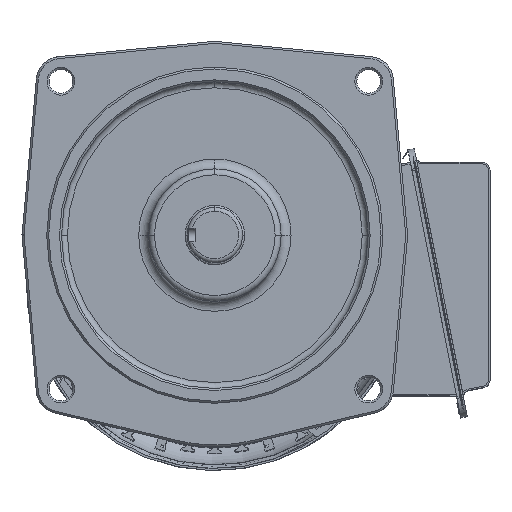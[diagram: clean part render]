
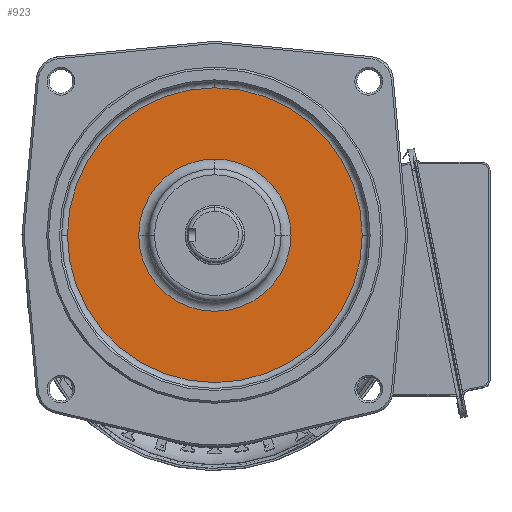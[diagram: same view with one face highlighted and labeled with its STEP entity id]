
A CAD part, top view. The second image highlights one B-rep face of the part: STEP entity #923.
In plain terms, the highlighted planar face has unit normal (0, 0, 1).
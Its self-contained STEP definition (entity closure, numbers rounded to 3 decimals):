
#823=CARTESIAN_POINT('',(0.,61.5,277.5));
#824=VERTEX_POINT('',#823);
#832=CARTESIAN_POINT('',(-38.5,23.,277.5));
#833=VERTEX_POINT('',#832);
#834=CARTESIAN_POINT('',(0.,23.,277.5));
#835=DIRECTION('',(0.,0.,1.));
#836=DIRECTION('',(1.,0.,-0.));
#837=AXIS2_PLACEMENT_3D('',#834,#835,#836);
#838=CIRCLE('',#837,38.5);
#839=EDGE_CURVE('',#824,#833,#838,.T.);
#857=CARTESIAN_POINT('',(38.5,23.,277.5));
#858=VERTEX_POINT('',#857);
#868=CARTESIAN_POINT('',(0.,23.,277.5));
#869=DIRECTION('',(0.,0.,1.));
#870=DIRECTION('',(-1.,0.,0.));
#871=AXIS2_PLACEMENT_3D('',#868,#869,#870);
#872=CIRCLE('',#871,38.5);
#873=EDGE_CURVE('',#833,#858,#872,.T.);
#878=CARTESIAN_POINT('',(0.,23.,277.5));
#879=DIRECTION('',(0.,0.,1.));
#880=DIRECTION('',(0.,1.,0.));
#881=AXIS2_PLACEMENT_3D('',#878,#879,#880);
#882=PLANE('',#881);
#883=CARTESIAN_POINT('',(-0.,97.5,277.5));
#884=VERTEX_POINT('',#883);
#885=CARTESIAN_POINT('',(74.5,23.,277.5));
#886=VERTEX_POINT('',#885);
#887=CARTESIAN_POINT('',(0.,23.,277.5));
#888=DIRECTION('',(0.,0.,-1.));
#889=DIRECTION('',(-1.,0.,0.));
#890=AXIS2_PLACEMENT_3D('',#887,#888,#889);
#891=CIRCLE('',#890,74.5);
#892=EDGE_CURVE('',#884,#886,#891,.T.);
#893=ORIENTED_EDGE('',*,*,#892,.F.);
#894=CARTESIAN_POINT('',(-74.5,23.,277.5));
#895=VERTEX_POINT('',#894);
#896=CARTESIAN_POINT('',(0.,23.,277.5));
#897=DIRECTION('',(0.,0.,-1.));
#898=DIRECTION('',(-1.,0.,0.));
#899=AXIS2_PLACEMENT_3D('',#896,#897,#898);
#900=CIRCLE('',#899,74.5);
#901=EDGE_CURVE('',#895,#884,#900,.T.);
#902=ORIENTED_EDGE('',*,*,#901,.F.);
#903=CARTESIAN_POINT('',(0.,23.,277.5));
#904=DIRECTION('',(0.,0.,-1.));
#905=DIRECTION('',(1.,0.,0.));
#906=AXIS2_PLACEMENT_3D('',#903,#904,#905);
#907=CIRCLE('',#906,74.5);
#908=EDGE_CURVE('',#886,#895,#907,.T.);
#909=ORIENTED_EDGE('',*,*,#908,.F.);
#910=EDGE_LOOP('',(#893,#902,#909));
#911=FACE_BOUND('',#910,.T.);
#912=ORIENTED_EDGE('',*,*,#873,.F.);
#913=ORIENTED_EDGE('',*,*,#839,.F.);
#914=CARTESIAN_POINT('',(0.,23.,277.5));
#915=DIRECTION('',(0.,0.,1.));
#916=DIRECTION('',(1.,0.,-0.));
#917=AXIS2_PLACEMENT_3D('',#914,#915,#916);
#918=CIRCLE('',#917,38.5);
#919=EDGE_CURVE('',#858,#824,#918,.T.);
#920=ORIENTED_EDGE('',*,*,#919,.F.);
#921=EDGE_LOOP('',(#912,#913,#920));
#922=FACE_BOUND('',#921,.T.);
#923=ADVANCED_FACE('',(#911,#922),#882,.T.);
